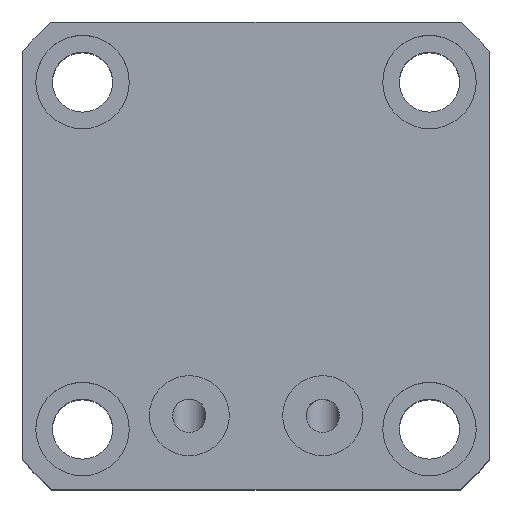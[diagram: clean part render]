
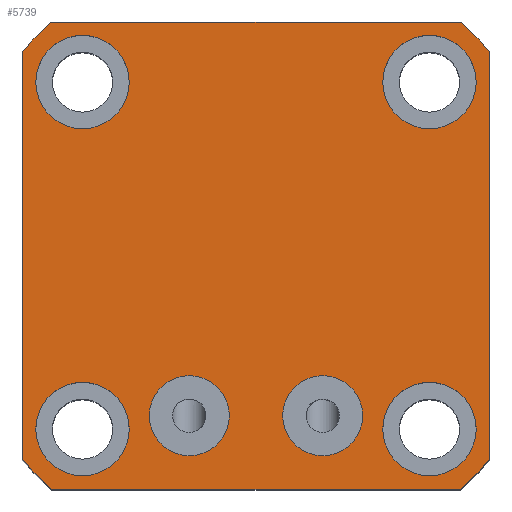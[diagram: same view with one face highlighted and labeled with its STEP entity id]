
A CAD part, top view. The second image highlights one B-rep face of the part: STEP entity #5739.
In plain terms, the highlighted planar face has unit normal (0, 0, 1).
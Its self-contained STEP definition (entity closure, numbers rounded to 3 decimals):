
#544=LINE('',#16852,#1447);
#550=LINE('',#17116,#1453);
#554=LINE('',#17125,#1457);
#558=LINE('',#17134,#1461);
#1447=VECTOR('',#12731,1.);
#1453=VECTOR('',#12857,1.);
#1457=VECTOR('',#12863,1.);
#1461=VECTOR('',#12869,1.);
#4892=PLANE('',#12238);
#5739=ADVANCED_FACE('',(#6377,#6378,#6379,#6380,#6381,#6382,#6383),#4892,
 .T.);
#6212=CIRCLE('',#12181,6.);
#6214=CIRCLE('',#12184,6.);
#6237=CIRCLE('',#12219,7.);
#6239=CIRCLE('',#12222,7.);
#6241=CIRCLE('',#12225,7.);
#6243=CIRCLE('',#12228,7.);
#6245=CIRCLE('',#12234,46.5);
#6246=CIRCLE('',#12235,46.5);
#6247=CIRCLE('',#12236,46.5);
#6248=CIRCLE('',#12237,46.5);
#6377=FACE_BOUND('',#6586,.T.);
#6378=FACE_BOUND('',#6587,.T.);
#6379=FACE_BOUND('',#6588,.T.);
#6380=FACE_BOUND('',#6589,.T.);
#6381=FACE_BOUND('',#6590,.T.);
#6382=FACE_BOUND('',#6591,.T.);
#6383=FACE_BOUND('',#6592,.T.);
#6586=EDGE_LOOP('',(#7303));
#6587=EDGE_LOOP('',(#7304));
#6588=EDGE_LOOP('',(#7305));
#6589=EDGE_LOOP('',(#7306));
#6590=EDGE_LOOP('',(#7307));
#6591=EDGE_LOOP('',(#7308));
#6592=EDGE_LOOP('',(#7309,#7310,#7311,#7312,#7313,#7314,#7315,#7316));
#7303=ORIENTED_EDGE('',*,*,#10567,.F.);
#7304=ORIENTED_EDGE('',*,*,#10569,.F.);
#7305=ORIENTED_EDGE('',*,*,#10592,.F.);
#7306=ORIENTED_EDGE('',*,*,#10594,.F.);
#7307=ORIENTED_EDGE('',*,*,#10596,.F.);
#7308=ORIENTED_EDGE('',*,*,#10598,.F.);
#7309=ORIENTED_EDGE('',*,*,#10547,.T.);
#7310=ORIENTED_EDGE('',*,*,#10612,.T.);
#7311=ORIENTED_EDGE('',*,*,#10601,.T.);
#7312=ORIENTED_EDGE('',*,*,#10613,.T.);
#7313=ORIENTED_EDGE('',*,*,#10605,.T.);
#7314=ORIENTED_EDGE('',*,*,#10614,.T.);
#7315=ORIENTED_EDGE('',*,*,#10609,.T.);
#7316=ORIENTED_EDGE('',*,*,#10615,.T.);
#9660=VERTEX_POINT('',#16850);
#9662=VERTEX_POINT('',#16853);
#9681=VERTEX_POINT('',#17032);
#9683=VERTEX_POINT('',#17037);
#9705=VERTEX_POINT('',#17094);
#9707=VERTEX_POINT('',#17099);
#9709=VERTEX_POINT('',#17104);
#9711=VERTEX_POINT('',#17109);
#9713=VERTEX_POINT('',#17114);
#9715=VERTEX_POINT('',#17117);
#9717=VERTEX_POINT('',#17123);
#9719=VERTEX_POINT('',#17126);
#9721=VERTEX_POINT('',#17132);
#9723=VERTEX_POINT('',#17135);
#10547=EDGE_CURVE('',#9662,#9660,#544,.T.);
#10567=EDGE_CURVE('',#9681,#9681,#6212,.T.);
#10569=EDGE_CURVE('',#9683,#9683,#6214,.T.);
#10592=EDGE_CURVE('',#9705,#9705,#6237,.T.);
#10594=EDGE_CURVE('',#9707,#9707,#6239,.T.);
#10596=EDGE_CURVE('',#9709,#9709,#6241,.T.);
#10598=EDGE_CURVE('',#9711,#9711,#6243,.T.);
#10601=EDGE_CURVE('',#9715,#9713,#550,.T.);
#10605=EDGE_CURVE('',#9719,#9717,#554,.T.);
#10609=EDGE_CURVE('',#9723,#9721,#558,.T.);
#10612=EDGE_CURVE('',#9660,#9715,#6245,.T.);
#10613=EDGE_CURVE('',#9713,#9719,#6246,.T.);
#10614=EDGE_CURVE('',#9717,#9723,#6247,.T.);
#10615=EDGE_CURVE('',#9721,#9662,#6248,.T.);
#12181=AXIS2_PLACEMENT_3D('',#17031,#12756,#12757);
#12184=AXIS2_PLACEMENT_3D('',#17036,#12762,#12763);
#12219=AXIS2_PLACEMENT_3D('',#17093,#12832,#12833);
#12222=AXIS2_PLACEMENT_3D('',#17098,#12838,#12839);
#12225=AXIS2_PLACEMENT_3D('',#17103,#12844,#12845);
#12228=AXIS2_PLACEMENT_3D('',#17108,#12850,#12851);
#12234=AXIS2_PLACEMENT_3D('',#17140,#12874,#12875);
#12235=AXIS2_PLACEMENT_3D('',#17141,#12876,#12877);
#12236=AXIS2_PLACEMENT_3D('',#17142,#12878,#12879);
#12237=AXIS2_PLACEMENT_3D('',#17143,#12880,#12881);
#12238=AXIS2_PLACEMENT_3D('',#17144,#12882,#12883);
#12731=DIRECTION('',(-1.,0.,0.));
#12756=DIRECTION('',(0.,0.,1.));
#12757=DIRECTION('',(0.,1.,0.));
#12762=DIRECTION('',(0.,0.,1.));
#12763=DIRECTION('',(0.,1.,0.));
#12832=DIRECTION('',(0.,0.,1.));
#12833=DIRECTION('',(0.,1.,0.));
#12838=DIRECTION('',(0.,0.,1.));
#12839=DIRECTION('',(0.,1.,0.));
#12844=DIRECTION('',(0.,0.,1.));
#12845=DIRECTION('',(0.,1.,0.));
#12850=DIRECTION('',(0.,0.,1.));
#12851=DIRECTION('',(0.,1.,0.));
#12857=DIRECTION('',(0.,-1.,0.));
#12863=DIRECTION('',(1.,0.,0.));
#12869=DIRECTION('',(0.,1.,0.));
#12874=DIRECTION('',(0.,0.,1.));
#12875=DIRECTION('',(0.,1.,0.));
#12876=DIRECTION('',(0.,0.,1.));
#12877=DIRECTION('',(0.,1.,0.));
#12878=DIRECTION('',(0.,0.,1.));
#12879=DIRECTION('',(0.,1.,0.));
#12880=DIRECTION('',(0.,0.,1.));
#12881=DIRECTION('',(0.,1.,0.));
#12882=DIRECTION('',(0.,0.,1.));
#12883=DIRECTION('',(0.,-1.,0.));
#16850=CARTESIAN_POINT('',(-19.062,19.991,71.335));
#16852=CARTESIAN_POINT('',(-23.448,19.991,71.335));
#16853=CARTESIAN_POINT('',(42.167,19.991,71.335));
#17031=CARTESIAN_POINT('',(21.552,-39.009,71.335));
#17032=CARTESIAN_POINT('',(21.552,-33.009,71.335));
#17036=CARTESIAN_POINT('',(1.552,-39.009,71.335));
#17037=CARTESIAN_POINT('',(1.552,-33.009,71.335));
#17093=CARTESIAN_POINT('',(37.552,-41.009,71.335));
#17094=CARTESIAN_POINT('',(37.552,-34.009,71.335));
#17098=CARTESIAN_POINT('',(37.552,10.991,71.335));
#17099=CARTESIAN_POINT('',(37.552,17.991,71.335));
#17103=CARTESIAN_POINT('',(-14.448,10.991,71.335));
#17104=CARTESIAN_POINT('',(-14.448,17.991,71.335));
#17108=CARTESIAN_POINT('',(-14.448,-41.009,71.335));
#17109=CARTESIAN_POINT('',(-14.448,-34.009,71.335));
#17114=CARTESIAN_POINT('',(-23.448,-45.624,71.335));
#17116=CARTESIAN_POINT('',(-23.448,-50.009,71.335));
#17117=CARTESIAN_POINT('',(-23.448,15.605,71.335));
#17123=CARTESIAN_POINT('',(42.167,-50.009,71.335));
#17125=CARTESIAN_POINT('',(-23.448,-50.009,71.335));
#17126=CARTESIAN_POINT('',(-19.062,-50.009,71.335));
#17132=CARTESIAN_POINT('',(46.552,15.605,71.335));
#17134=CARTESIAN_POINT('',(46.552,-50.009,71.335));
#17135=CARTESIAN_POINT('',(46.552,-45.624,71.335));
#17140=CARTESIAN_POINT('',(11.552,-15.009,71.335));
#17141=CARTESIAN_POINT('',(11.552,-15.009,71.335));
#17142=CARTESIAN_POINT('',(11.552,-15.009,71.335));
#17143=CARTESIAN_POINT('',(11.552,-15.009,71.335));
#17144=CARTESIAN_POINT('',(11.552,-15.009,71.335));
